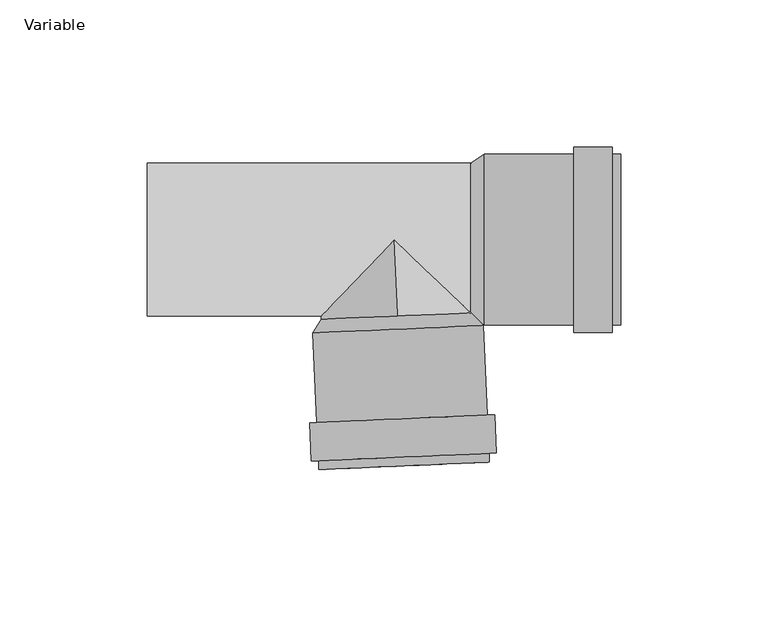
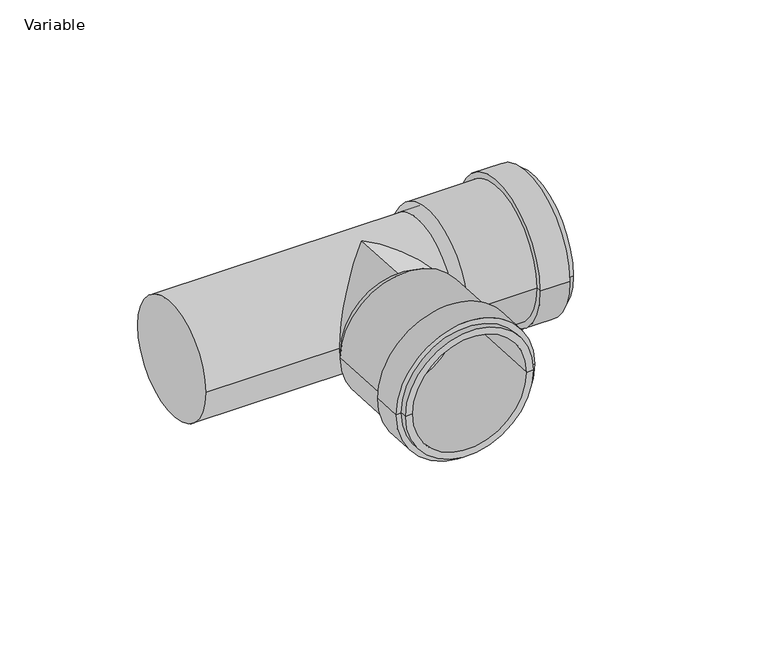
"""IFC4 building model written with IfcOpenShell, lengths in millimetres: pipe fitting geometry, AliaxisFR_Friaphon_Branch_FR : Variable."""

from ifc_helpers import new_model, si_unit, frame, origin, place, context, project, spatial, polyline, circle_curve, ellipse_curve, source, transform, mapped, element, save
from ifc_brep_helpers import plane_surface, cylinder_surface, revolved_surface, advanced_brep


def variable_52af7f45(model_context):
    return source(origin(), model_context, "Body", "AdvancedBrep", [
        advanced_brep(
        [(-25.6137056, -78.1916753, 0.0), (32.3310913, -75.6617508, 0.0), (29.3339466, -75.792609, 0.0), (-22.6165609, -78.0608171, 0.0), (-28.8092364, -62.3159522, 0.0), (34.1308016, -59.5679308, 0.0), (34.6978536, -72.5555577, 0.0), (-28.2421843, -75.3035791, 0.0), (-26.3116158, -62.2069038, 0.0), (31.6331811, -59.6769793, 0.0), (-27.6420071, -31.735933, 0.0), (30.3027897, -29.2060085, 0.0), (27.1093578, -24.8411497, 0.0), (-24.8411497, -27.1093578, 0.0), (-25.7445638, -75.1945306, 0.0), (32.2002331, -72.6646062, 0.0)],
        [
            (0, 1, circle_curve(frame((3.3586928, -76.9267131, 0.0), z_axis=(0.04361938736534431, -0.9990482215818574, 0.0), x_axis=(0.9990482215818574, 0.04361938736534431, 0.0)), 29.0)),
            (1, 2),
            (2, 3, circle_curve(frame((3.3586928, -76.9267131, 0.0), z_axis=(-0.04361938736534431, 0.9990482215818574, 0.0), x_axis=(0.9990482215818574, 0.04361938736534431, 0.0)), 26.0)),
            (3, 0),
            (1, 0, circle_curve(frame((3.3586928, -76.9267131, 0.0), z_axis=(0.04361938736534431, -0.9990482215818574, 0.0), x_axis=(0.9990482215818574, 0.04361938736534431, 0.0)), 29.0)),
            (3, 2, circle_curve(frame((3.3586928, -76.9267131, 0.0), z_axis=(-0.04361938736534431, 0.9990482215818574, 0.0), x_axis=(0.9990482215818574, 0.04361938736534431, 0.0)), 26.0)),
            (4, 5, circle_curve(frame((2.6607826, -60.9419415, 0.0), z_axis=(0.04361938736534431, -0.9990482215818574, 0.0), x_axis=(0.9990482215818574, 0.04361938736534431, 0.0)), 31.5)),
            (5, 6),
            (6, 7, circle_curve(frame((3.2278347, -73.9295684, 0.0), z_axis=(-0.04361938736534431, 0.9990482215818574, 0.0), x_axis=(0.9990482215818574, 0.04361938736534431, 0.0)), 31.5)),
            (7, 4),
            (5, 4, circle_curve(frame((2.6607826, -60.9419415, 0.0), z_axis=(0.04361938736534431, -0.9990482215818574, 0.0), x_axis=(0.9990482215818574, 0.04361938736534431, 0.0)), 31.5)),
            (7, 6, circle_curve(frame((3.2278347, -73.9295684, 0.0), z_axis=(-0.04361938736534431, 0.9990482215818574, 0.0), x_axis=(0.9990482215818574, 0.04361938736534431, 0.0)), 31.5)),
            (8, 9, circle_curve(frame((2.6607826, -60.9419415, 0.0), z_axis=(0.04361938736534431, -0.9990482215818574, 0.0), x_axis=(0.9990482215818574, 0.04361938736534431, 0.0)), 29.0)),
            (9, 5),
            (4, 8),
            (9, 8, circle_curve(frame((2.6607826, -60.9419415, 0.0), z_axis=(0.04361938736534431, -0.9990482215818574, 0.0), x_axis=(0.9990482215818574, 0.04361938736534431, 0.0)), 29.0)),
            (10, 11, circle_curve(frame((1.3303913, -30.4709708, 0.0), z_axis=(0.04361938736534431, -0.9990482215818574, 0.0), x_axis=(0.9990482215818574, 0.04361938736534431, 0.0)), 29.0)),
            (11, 9),
            (8, 10),
            (11, 10, circle_curve(frame((1.3303913, -30.4709708, 0.0), z_axis=(0.04361938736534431, -0.9990482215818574, 0.0), x_axis=(0.9990482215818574, 0.04361938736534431, 0.0)), 29.0)),
            (2, 12),
            (12, 13, circle_curve(frame((1.1341041, -25.9752538, 0.0), z_axis=(-0.04361938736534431, 0.9990482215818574, 0.0), x_axis=(0.9990482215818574, 0.04361938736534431, 0.0)), 26.0)),
            (13, 3),
            (13, 12, circle_curve(frame((1.1341041, -25.9752538, 0.0), z_axis=(-0.04361938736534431, 0.9990482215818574, 0.0), x_axis=(0.9990482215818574, 0.04361938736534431, 0.0)), 26.0)),
            (12, 11),
            (10, 13),
            (14, 15, circle_curve(frame((3.2278347, -73.9295684, 0.0), z_axis=(0.04361938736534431, -0.9990482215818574, 0.0), x_axis=(0.9990482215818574, 0.04361938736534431, 0.0)), 29.0)),
            (15, 1),
            (0, 14),
            (15, 14, circle_curve(frame((3.2278347, -73.9295684, 0.0), z_axis=(0.04361938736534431, -0.9990482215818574, 0.0), x_axis=(0.9990482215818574, 0.04361938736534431, 0.0)), 29.0)),
            (6, 15),
            (14, 7),
        ],
        [
            plane_surface(frame((3.3586928, -76.9267131, 0.0), z_axis=(0.04361938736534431, -0.9990482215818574, 0.0), x_axis=(0.9990482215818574, 0.04361938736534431, 0.0))),
            cylinder_surface(frame((1.1341041, -25.9752538, 0.0), z_axis=(-0.04361938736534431, 0.9990482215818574, 0.0), x_axis=(0.9990482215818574, 0.04361938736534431, 0.0)), 31.5),
            plane_surface(frame((2.6607826, -60.9419415, 0.0), z_axis=(-0.04361938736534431, 0.9990482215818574, 0.0), x_axis=(0.9990482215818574, 0.04361938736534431, 0.0))),
            cylinder_surface(frame((1.1341041, -25.9752538, 0.0), z_axis=(-0.04361938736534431, 0.9990482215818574, 0.0), x_axis=(0.9990482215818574, 0.04361938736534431, 0.0)), 29.0),
            revolved_surface(polyline([(27.109357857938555, -24.841149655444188, 0.0), (29.333946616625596, -75.79260902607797, 0.0)]), (1.1341041, -25.9752538, 0.0), (-0.04361938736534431, 0.9990482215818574, 0.0)),
            revolved_surface(polyline([(30.3027897, -29.2060085, 0.0), (27.1093578, -24.8411497, 0.0)]), (1.1341041, -25.9752538, 0.0), (-0.04361938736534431, 0.9990482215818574, 0.0)),
            plane_surface(frame((3.2278347, -73.9295684, 0.0), z_axis=(0.04361938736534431, -0.9990482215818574, 0.0), x_axis=(0.9990482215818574, 0.04361938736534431, 0.0))),
        ],
        [
            (0, [[1, 2, 3, 4]]),
            (0, [[5, -4, 6, -2]]),
            (1, [[7, 8, 9, 10]]),
            (1, [[11, -10, 12, -8]]),
            (2, [[13, 14, -7, 15]]),
            (2, [[16, -15, -11, -14]]),
            (3, [[17, 18, -13, 19]]),
            (3, [[20, -19, -16, -18]]),
            (4, [[-3, 21, 22, 23]]),
            (4, [[-6, -23, 24, -21]]),
            (5, [[-22, 25, -17, 26]]),
            (5, [[-24, -26, -20, -25]]),
            (3, [[27, 28, -1, 29]]),
            (3, [[30, -29, -5, -28]]),
            (6, [[-9, 31, -27, 32]]),
            (6, [[-12, -32, -30, -31]]),
        ],
    ),
        advanced_brep(
        [(77.0, -29.0, 0.0), (77.0, 29.0, 0.0), (77.0, 26.0, 0.0), (77.0, -26.0, 0.0), (61.0, -31.5, 0.0), (61.0, 31.5, 0.0), (74.0, 31.5, 0.0), (74.0, -31.5, 0.0), (61.0, -29.0, 0.0), (61.0, 29.0, 0.0), (30.5, -29.0, 0.0), (30.5, 29.0, 0.0), (26.0, 26.0, 0.0), (26.0, -26.0, 0.0), (74.0, -29.0, 0.0), (74.0, 29.0, 0.0)],
        [
            (0, 1, circle_curve(frame((77.0, 0.0, 0.0), z_axis=(1.0, 0.0, 0.0), x_axis=(0.0, 1.0, 0.0)), 29.0)),
            (1, 2),
            (2, 3, circle_curve(frame((77.0, 0.0, 0.0), z_axis=(-1.0, 0.0, 0.0), x_axis=(0.0, 1.0, 0.0)), 26.0)),
            (3, 0),
            (1, 0, circle_curve(frame((77.0, 0.0, 0.0), z_axis=(1.0, 0.0, 0.0), x_axis=(0.0, 1.0, 0.0)), 29.0)),
            (3, 2, circle_curve(frame((77.0, 0.0, 0.0), z_axis=(-1.0, 0.0, 0.0), x_axis=(0.0, 1.0, 0.0)), 26.0)),
            (4, 5, circle_curve(frame((61.0, 0.0, 0.0), z_axis=(1.0, 0.0, 0.0), x_axis=(0.0, 1.0, 0.0)), 31.5)),
            (5, 6),
            (6, 7, circle_curve(frame((74.0, 0.0, 0.0), z_axis=(-1.0, 0.0, 0.0), x_axis=(0.0, 1.0, 0.0)), 31.5)),
            (7, 4),
            (5, 4, circle_curve(frame((61.0, 0.0, 0.0), z_axis=(1.0, 0.0, 0.0), x_axis=(0.0, 1.0, 0.0)), 31.5)),
            (7, 6, circle_curve(frame((74.0, 0.0, 0.0), z_axis=(-1.0, 0.0, 0.0), x_axis=(0.0, 1.0, 0.0)), 31.5)),
            (8, 9, circle_curve(frame((61.0, 0.0, 0.0), z_axis=(1.0, 0.0, 0.0), x_axis=(0.0, 1.0, 0.0)), 29.0)),
            (9, 5),
            (4, 8),
            (9, 8, circle_curve(frame((61.0, 0.0, 0.0), z_axis=(1.0, 0.0, 0.0), x_axis=(0.0, 1.0, 0.0)), 29.0)),
            (10, 11, circle_curve(frame((30.5, 0.0, 0.0), z_axis=(1.0, 0.0, 0.0), x_axis=(0.0, 1.0, 0.0)), 29.0)),
            (11, 9),
            (8, 10),
            (11, 10, circle_curve(frame((30.5, 0.0, 0.0), z_axis=(1.0, 0.0, 0.0), x_axis=(0.0, 1.0, 0.0)), 29.0)),
            (2, 12),
            (12, 13, circle_curve(frame((26.0, 0.0, 0.0), z_axis=(-1.0, 0.0, 0.0), x_axis=(0.0, 1.0, 0.0)), 26.0)),
            (13, 3),
            (13, 12, circle_curve(frame((26.0, 0.0, 0.0), z_axis=(-1.0, 0.0, 0.0), x_axis=(0.0, 1.0, 0.0)), 26.0)),
            (12, 11),
            (10, 13),
            (14, 15, circle_curve(frame((74.0, 0.0, 0.0), z_axis=(1.0, 0.0, 0.0), x_axis=(0.0, 1.0, 0.0)), 29.0)),
            (15, 1),
            (0, 14),
            (15, 14, circle_curve(frame((74.0, 0.0, 0.0), z_axis=(1.0, 0.0, 0.0), x_axis=(0.0, 1.0, 0.0)), 29.0)),
            (6, 15),
            (14, 7),
        ],
        [
            plane_surface(frame((77.0, 0.0, 0.0), z_axis=(1.0, 0.0, 0.0), x_axis=(0.0, 1.0, 0.0))),
            cylinder_surface(frame((26.0, 0.0, 0.0), z_axis=(-1.0, 0.0, 0.0), x_axis=(0.0, 1.0, 0.0)), 31.5),
            plane_surface(frame((61.0, 0.0, 0.0), z_axis=(-1.0, 0.0, 0.0), x_axis=(0.0, 1.0, 0.0))),
            cylinder_surface(frame((26.0, 0.0, 0.0), z_axis=(-1.0, 0.0, 0.0), x_axis=(0.0, 1.0, 0.0)), 29.0),
            revolved_surface(polyline([(26.0, 26.0, 0.0), (77.0, 26.0, 0.0)]), (26.0, 0.0, 0.0), (-1.0, 0.0, 0.0)),
            revolved_surface(polyline([(30.5, 29.0, 0.0), (26.0, 26.0, 0.0)]), (26.0, 0.0, 0.0), (-1.0, 0.0, 0.0)),
            plane_surface(frame((74.0, 0.0, 0.0), z_axis=(1.0, 0.0, 0.0), x_axis=(0.0, 1.0, 0.0))),
        ],
        [
            (0, [[1, 2, 3, 4]]),
            (0, [[5, -4, 6, -2]]),
            (1, [[7, 8, 9, 10]]),
            (1, [[11, -10, 12, -8]]),
            (2, [[13, 14, -7, 15]]),
            (2, [[16, -15, -11, -14]]),
            (3, [[17, 18, -13, 19]]),
            (3, [[20, -19, -16, -18]]),
            (4, [[-3, 21, 22, 23]]),
            (4, [[-6, -23, 24, -21]]),
            (5, [[-22, 25, -17, 26]]),
            (5, [[-24, -26, -20, -25]]),
            (3, [[27, 28, -1, 29]]),
            (3, [[30, -29, -5, -28]]),
            (6, [[-9, 31, -27, 32]]),
            (6, [[-12, -32, -30, -31]]),
        ],
    ),
        advanced_brep(
        [(29.0, -26.0, 0.0), (29.0, 26.0, 0.0), (-84.0, -26.0, 0.0), (-84.0, 26.0, 0.0), (27.1599543, -26.0, 0.0), (0.0, 0.0, -26.0), (-24.8895853, -26.0, 0.0), (0.0, 0.0, 26.0), (1.2649622, -28.9723984, -26.0), (1.2649622, -28.9723984, 26.0)],
        [
            (0, 1, circle_curve(frame((29.0, 0.0, 0.0), z_axis=(1.0, 0.0, 0.0), x_axis=(0.0, 1.0, 0.0)), 26.0)),
            (1, 0, circle_curve(frame((29.0, 0.0, 0.0), z_axis=(1.0, 0.0, 0.0), x_axis=(0.0, 1.0, 0.0)), 26.0)),
            (2, 3, circle_curve(frame((-84.0, 0.0, 0.0), z_axis=(-1.0, 0.0, 0.0), x_axis=(0.0, 1.0, 0.0)), 26.0)),
            (3, 2, circle_curve(frame((-84.0, 0.0, 0.0), z_axis=(-1.0, 0.0, 0.0), x_axis=(0.0, 1.0, 0.0)), 26.0)),
            (0, 4),
            (4, 5, ellipse_curve(frame((0.0, 0.0, 0.0), z_axis=(0.6915130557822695, 0.7223639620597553, 0.0), x_axis=(0.7223639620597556, -0.6915130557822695, 0.0)), 37.5987117, 26.0)),
            (5, 6, ellipse_curve(frame((0.0, 0.0, 0.0), z_axis=(-0.7223639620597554, 0.6915130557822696, 0.0), x_axis=(0.6915130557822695, 0.7223639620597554, 0.0)), 35.9929362, 26.0)),
            (6, 2),
            (3, 1),
            (6, 7, ellipse_curve(frame((0.0, 0.0, 0.0), z_axis=(-0.7223639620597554, 0.6915130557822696, 0.0), x_axis=(0.6915130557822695, 0.7223639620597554, 0.0)), 35.9929362, 26.0)),
            (7, 4, ellipse_curve(frame((0.0, 0.0, 0.0), z_axis=(0.6915130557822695, 0.7223639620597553, 0.0), x_axis=(0.7223639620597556, -0.6915130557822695, 0.0)), 37.5987117, 26.0)),
            (8, 9, circle_curve(frame((1.2649622, -28.9723984, 0.0), z_axis=(0.04361938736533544, -0.9990482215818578, 0.0), x_axis=(0.0, 0.0, 1.0)), 26.0)),
            (9, 8, circle_curve(frame((1.2649622, -28.9723984, 0.0), z_axis=(0.04361938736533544, -0.9990482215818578, 0.0), x_axis=(0.0, 0.0, 1.0)), 26.0)),
            (8, 5),
            (7, 9),
        ],
        [
            plane_surface(frame((29.0, 26.0, 0.0), z_axis=(1.0, 0.0, 0.0), x_axis=(0.0, 0.0, 1.0))),
            plane_surface(frame((-84.0, 26.0, 0.0), z_axis=(-1.0, 0.0, 0.0), x_axis=(0.0, 0.0, -1.0))),
            cylinder_surface(frame((-84.0, 0.0, 0.0), z_axis=(1.0, 0.0, 0.0), x_axis=(0.0, 1.0, 0.0)), 26.0),
            plane_surface(frame((1.2649622, -28.9723984, 26.0), z_axis=(0.043619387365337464, -0.9990482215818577, 0.0), x_axis=(-0.9990482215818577, -0.043619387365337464, 0.0))),
            cylinder_surface(frame((1.2649622, -28.9723984, 0.0), z_axis=(-0.04361938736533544, 0.9990482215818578, 0.0), x_axis=(0.0, 0.0, 1.0)), 26.0),
        ],
        [
            (0, [[1, 2]]),
            (1, [[3, 4]]),
            (2, [[-1, 5, 6, 7, 8, -4, 9]]),
            (2, [[-2, -9, -3, -8, 10, 11, -5]]),
            (3, [[12, 13]]),
            (4, [[-12, 14, -6, -11, 15]]),
            (4, [[-13, -15, -10, -7, -14]]),
        ],
    ),
    ])


if __name__ == "__main__":
    model = new_model("IFC4")
    model_context = context("Model", 3, world=origin())
    ifc_project = project(units=[si_unit("LENGTHUNIT", "METRE", prefix="MILLI")], contexts=[model_context])
    site = spatial("IfcSite", under=ifc_project)
    building = spatial("IfcBuilding", under=site)
    placement = place(None, origin())
    variable_shape = variable_52af7f45(model_context)
    element("IfcPipeFitting", 1, ObjectType="AliaxisFR_Friaphon_Branch_FR : Variable", at=placement, inside=building, context=model_context, shape_type="MappedRepresentation", body=[
        mapped(variable_shape, transform((0.0, 0.0, 0.0), x_axis=(1.0, 0.0, 0.0), y_axis=(0.0, 1.0, 0.0), z_axis=(0.0, 0.0, 1.0))),
    ])
    save(model, "model.ifc")
